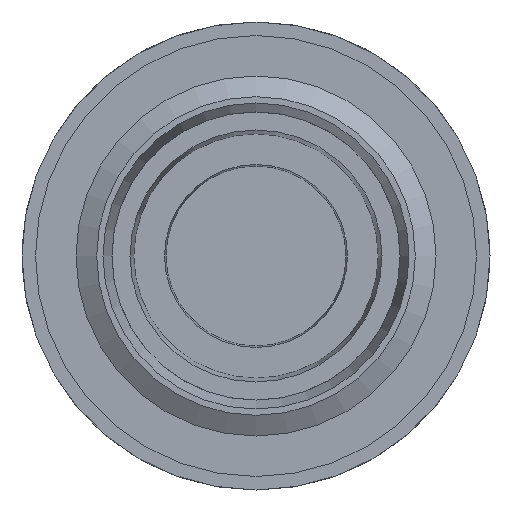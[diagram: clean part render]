
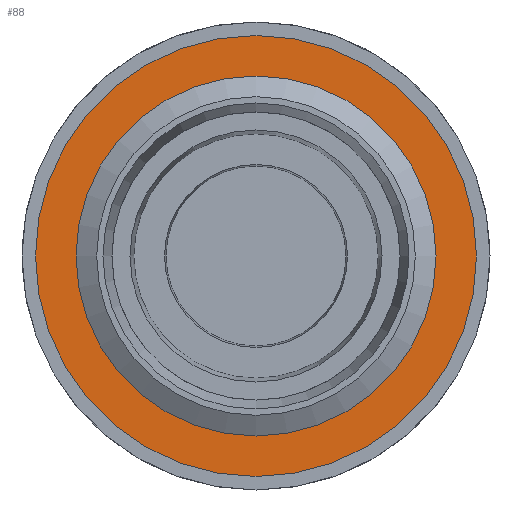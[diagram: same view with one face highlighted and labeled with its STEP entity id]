
A CAD part, left-side view. The second image highlights one B-rep face of the part: STEP entity #88.
In plain terms, the highlighted planar face has unit normal (-1, 0, 0).
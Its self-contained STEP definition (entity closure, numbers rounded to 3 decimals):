
#88 = ADVANCED_FACE( '', ( #213, #214 ), #215, .T. );
#213 = FACE_BOUND( '', #430, .T. );
#214 = FACE_OUTER_BOUND( '', #431, .T. );
#215 = PLANE( '', #432 );
#430 = EDGE_LOOP( '', ( #693 ) );
#431 = EDGE_LOOP( '', ( #694 ) );
#432 = AXIS2_PLACEMENT_3D( '', #695, #696, #697 );
#693 = ORIENTED_EDGE( '', *, *, #1147, .T. );
#694 = ORIENTED_EDGE( '', *, *, #1148, .F. );
#695 = CARTESIAN_POINT( '', ( 7.8, 12.25, 0. ) );
#696 = DIRECTION( '', ( -1., 0., 0. ) );
#697 = DIRECTION( '', ( 0., 0., 1. ) );
#1147 = EDGE_CURVE( '', #1353, #1353, #1354, .T. );
#1148 = EDGE_CURVE( '', #1355, #1355, #1356, .T. );
#1353 = VERTEX_POINT( '', #2455 );
#1354 = CIRCLE( '', #2456, 9.25 );
#1355 = VERTEX_POINT( '', #2457 );
#1356 = CIRCLE( '', #2458, 12.25 );
#2455 = CARTESIAN_POINT( '', ( 7.8, 0., -9.25 ) );
#2456 = AXIS2_PLACEMENT_3D( '', #2803, #2804, #2805 );
#2457 = CARTESIAN_POINT( '', ( 7.8, 0., -12.25 ) );
#2458 = AXIS2_PLACEMENT_3D( '', #2806, #2807, #2808 );
#2803 = CARTESIAN_POINT( '', ( 7.8, 0., 0. ) );
#2804 = DIRECTION( '', ( 1., 0., 0. ) );
#2805 = DIRECTION( '', ( 0., 0., -1. ) );
#2806 = CARTESIAN_POINT( '', ( 7.8, 0., 0. ) );
#2807 = DIRECTION( '', ( 1., 0., 0. ) );
#2808 = DIRECTION( '', ( 0., 0., -1. ) );
